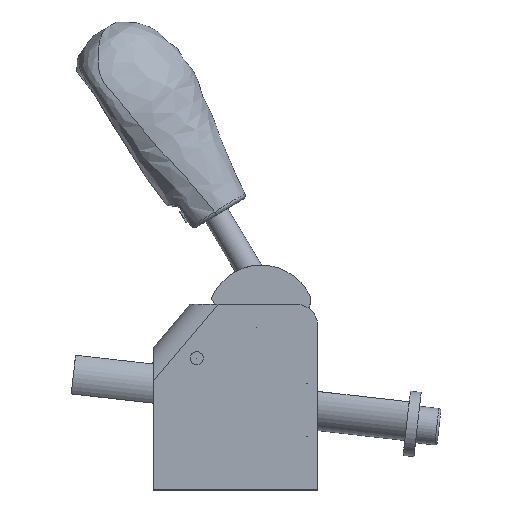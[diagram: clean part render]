
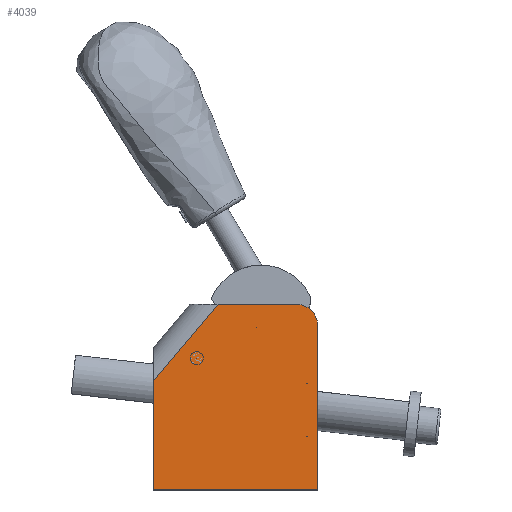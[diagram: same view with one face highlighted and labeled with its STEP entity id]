
A CAD part, top view. The second image highlights one B-rep face of the part: STEP entity #4039.
In plain terms, the highlighted planar face has unit normal (0, 0, 1).
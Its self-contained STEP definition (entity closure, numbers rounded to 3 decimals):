
#122=PLANE('',#4461);
#244=FACE_BOUND('',#618,.T.);
#245=FACE_BOUND('',#619,.T.);
#246=FACE_BOUND('',#620,.T.);
#247=FACE_BOUND('',#621,.T.);
#383=FACE_OUTER_BOUND('',#617,.T.);
#617=EDGE_LOOP('',(#2803,#2804,#2805,#2806,#2807,#2808));
#618=EDGE_LOOP('',(#2809));
#619=EDGE_LOOP('',(#2810));
#620=EDGE_LOOP('',(#2811));
#621=EDGE_LOOP('',(#2812));
#892=LINE('',#6290,#1210);
#898=LINE('',#6302,#1216);
#899=LINE('',#6305,#1217);
#900=LINE('',#6307,#1218);
#901=LINE('',#6309,#1219);
#1210=VECTOR('',#4933,10.);
#1216=VECTOR('',#4943,10.);
#1217=VECTOR('',#4946,10.);
#1218=VECTOR('',#4947,10.);
#1219=VECTOR('',#4948,10.);
#1513=CIRCLE('',#4438,0.005);
#1521=CIRCLE('',#4462,5.);
#1522=CIRCLE('',#4463,0.005);
#1523=CIRCLE('',#4464,0.005);
#1524=CIRCLE('',#4465,0.005);
#1724=VERTEX_POINT('',#6221);
#1743=VERTEX_POINT('',#6287);
#1744=VERTEX_POINT('',#6289);
#1748=VERTEX_POINT('',#6300);
#1749=VERTEX_POINT('',#6304);
#1750=VERTEX_POINT('',#6306);
#1751=VERTEX_POINT('',#6308);
#1752=VERTEX_POINT('',#6311);
#1753=VERTEX_POINT('',#6313);
#1754=VERTEX_POINT('',#6315);
#2137=EDGE_CURVE('',#1724,#1724,#1513,.T.);
#2164=EDGE_CURVE('',#1743,#1744,#892,.T.);
#2171=EDGE_CURVE('',#1748,#1743,#898,.T.);
#2172=EDGE_CURVE('',#1749,#1748,#899,.T.);
#2173=EDGE_CURVE('',#1750,#1749,#900,.T.);
#2174=EDGE_CURVE('',#1751,#1750,#901,.T.);
#2175=EDGE_CURVE('',#1744,#1751,#1521,.T.);
#2176=EDGE_CURVE('',#1752,#1752,#1522,.T.);
#2177=EDGE_CURVE('',#1753,#1753,#1523,.T.);
#2178=EDGE_CURVE('',#1754,#1754,#1524,.T.);
#2803=ORIENTED_EDGE('',*,*,#2171,.F.);
#2804=ORIENTED_EDGE('',*,*,#2172,.F.);
#2805=ORIENTED_EDGE('',*,*,#2173,.F.);
#2806=ORIENTED_EDGE('',*,*,#2174,.F.);
#2807=ORIENTED_EDGE('',*,*,#2175,.F.);
#2808=ORIENTED_EDGE('',*,*,#2164,.F.);
#2809=ORIENTED_EDGE('',*,*,#2137,.T.);
#2810=ORIENTED_EDGE('',*,*,#2176,.T.);
#2811=ORIENTED_EDGE('',*,*,#2177,.T.);
#2812=ORIENTED_EDGE('',*,*,#2178,.T.);
#4039=ADVANCED_FACE('',(#383,#244,#245,#246,#247),#122,.T.);
#4438=AXIS2_PLACEMENT_3D('',#6222,#4880,#4881);
#4461=AXIS2_PLACEMENT_3D('',#6303,#4944,#4945);
#4462=AXIS2_PLACEMENT_3D('',#6310,#4949,#4950);
#4463=AXIS2_PLACEMENT_3D('',#6312,#4951,#4952);
#4464=AXIS2_PLACEMENT_3D('',#6314,#4953,#4954);
#4465=AXIS2_PLACEMENT_3D('',#6316,#4955,#4956);
#4880=DIRECTION('center_axis',(0.,0.,-1.));
#4881=DIRECTION('ref_axis',(-1.,0.,0.));
#4933=DIRECTION('',(1.,0.,0.));
#4943=DIRECTION('',(0.643,0.766,0.));
#4944=DIRECTION('center_axis',(0.,0.,1.));
#4945=DIRECTION('ref_axis',(1.,0.,0.));
#4946=DIRECTION('',(0.,1.,0.));
#4947=DIRECTION('',(-1.,0.,0.));
#4948=DIRECTION('',(0.,-1.,0.));
#4949=DIRECTION('center_axis',(0.,0.,-1.));
#4950=DIRECTION('ref_axis',(1.,0.,0.));
#4951=DIRECTION('center_axis',(0.,0.,-1.));
#4952=DIRECTION('ref_axis',(-1.,0.,0.));
#4953=DIRECTION('center_axis',(0.,0.,-1.));
#4954=DIRECTION('ref_axis',(-1.,0.,0.));
#4955=DIRECTION('center_axis',(0.,0.,-1.));
#4956=DIRECTION('ref_axis',(-1.,0.,0.));
#6221=CARTESIAN_POINT('',(27.735,13.535,20.));
#6222=CARTESIAN_POINT('Origin',(27.73,13.535,20.));
#6287=CARTESIAN_POINT('',(7.148,44.135,20.));
#6289=CARTESIAN_POINT('',(25.23,44.135,20.));
#6290=CARTESIAN_POINT('',(25.23,44.135,20.));
#6300=CARTESIAN_POINT('',(-7.77,26.356,20.));
#6302=CARTESIAN_POINT('',(-3.026,32.01,20.));
#6303=CARTESIAN_POINT('Origin',(11.734,21.48,20.));
#6304=CARTESIAN_POINT('',(-7.77,1.135,20.));
#6305=CARTESIAN_POINT('',(-7.77,34.135,20.));
#6306=CARTESIAN_POINT('',(30.23,1.135,20.));
#6307=CARTESIAN_POINT('',(-7.77,1.135,20.));
#6308=CARTESIAN_POINT('',(30.23,39.135,20.));
#6309=CARTESIAN_POINT('',(30.23,1.135,20.));
#6310=CARTESIAN_POINT('Origin',(25.23,39.135,20.));
#6311=CARTESIAN_POINT('',(2.205,31.655,20.));
#6312=CARTESIAN_POINT('Origin',(2.2,31.655,20.));
#6313=CARTESIAN_POINT('',(27.735,25.735,20.));
#6314=CARTESIAN_POINT('Origin',(27.73,25.735,20.));
#6315=CARTESIAN_POINT('',(16.035,38.635,20.));
#6316=CARTESIAN_POINT('Origin',(16.03,38.635,20.));
